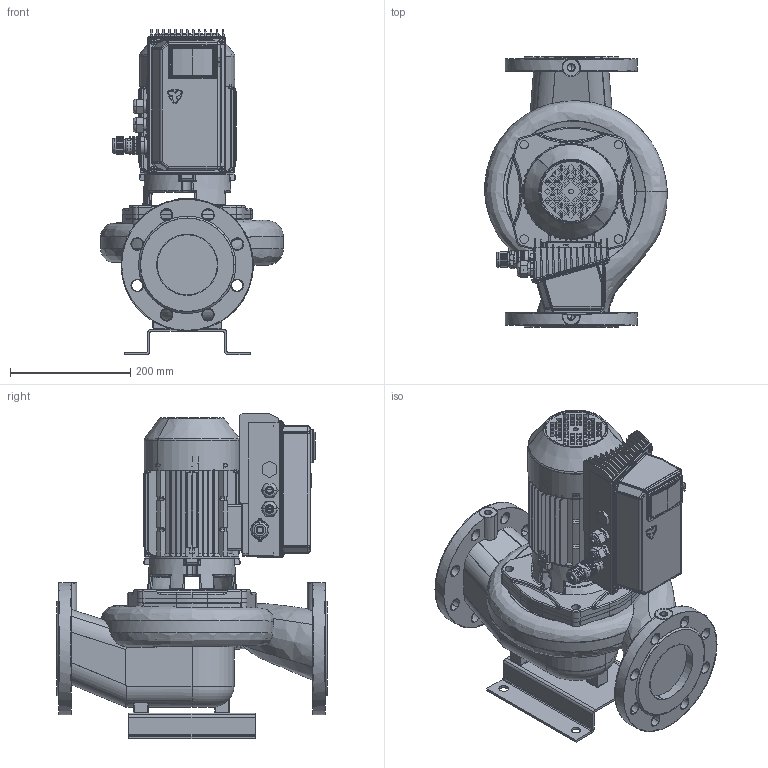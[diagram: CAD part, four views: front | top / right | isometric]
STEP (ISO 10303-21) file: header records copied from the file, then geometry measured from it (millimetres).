
FILE_DESCRIPTION(('STEP AP214'),'1');
FILE_NAME('export.stp','2018-05-31T11:42:46',(' '),(' '),'Spatial InterOp 3D',' ',' ');
FILE_SCHEMA(('AUTOMOTIVE_DESIGN { 1 0 10303 214 1 1 1 1 }'));
Length unit declared in the file: millimetre
Products named in the file (48): 160022; 160003; V_MKP80-2-F19_SC; 480032; 480031___; 480034; 480033___; 160133; P100518; P100576; DIN_7985-M4x12; P100453; P100467; DIN_7985-M5x12; P100429; P100396; P100430; P100515; P100512; P100513; P100514; P100509; ontto_sylinteri; DIN_7985-M3x12; P100569; P100567; P100566; P100565; P100606; P100607; P100580; P101504; P100608; DIN_7985-M4x8; DIN_7985-M4x6; Toroid; DIN_7985-M3x8; P101317; P101319; P101332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
Assembly tree (57 placements, depth 5):
  W_AL11024SC750KP
    V_MKP80-2-F19_SC
      160022
        160003
      480032
        480031___
      480034
        480033___
      160133
      P100518
        P100576
        DIN_7985-M4x12  x4
        P100453
        P100467
        DIN_7985-M5x12  x4
        P100429
          P100396
          P100430
        P100515
          P100512
          P100513
          P100514
          P100509
          ontto_sylinteri
        DIN_7985-M3x12  x2
        P100569
        P100567
          P100566
          P100565
          ontto_sylinteri
        P100606
          P100607
          P100565
          ontto_sylinteri
        P100580
        P101504
        P100608
        DIN_7985-M4x8  x2
        DIN_7985-M4x6
        Toroid
        DIN_7985-M3x8  x2
        P101317
        P101319
        P101332
          PART3
          PART4
    V_TLL65AB80A1102
    V_PPAL1102
    V_JALKA35973
Bounding box: 304.07 x 450 x 542.28 mm (x, y, z)
Volume: 3727026.2 mm3; surface area: 2366164.8 mm2
Topology: 47 solids, 47 shells, 4998 faces, 13193 edges, 8326 vertices
Faces by surface type: plane 2130, cylinder 1685, torus 424, bspline 340, cone 241, sphere 170, offset 8
Entity records: 212967 total; most frequent: CARTESIAN_POINT 57597, ORIENTED_EDGE 25094, DIRECTION 24769, EDGE_CURVE 12547, AXIS2_PLACEMENT_3D 9343, VERTEX_POINT 7982, LINE 6083, VECTOR 6083
